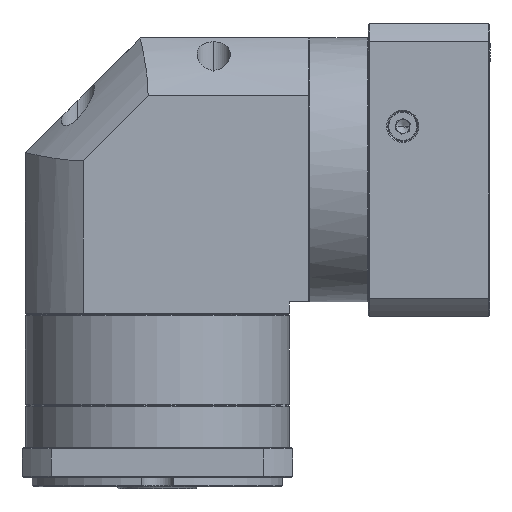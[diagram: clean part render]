
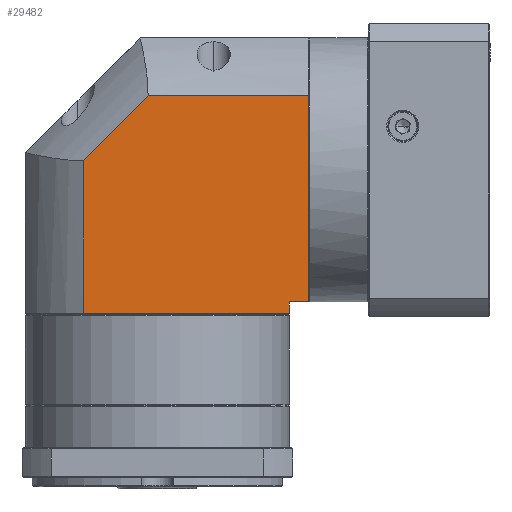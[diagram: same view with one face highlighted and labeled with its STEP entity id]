
A CAD part, front view. The second image highlights one B-rep face of the part: STEP entity #29482.
In plain terms, the highlighted planar face has unit normal (0, -1, 0).
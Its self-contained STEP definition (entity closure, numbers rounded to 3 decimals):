
#245 = VERTEX_POINT ( 'NONE', #123141 ) ;
#1112 = LINE ( 'NONE', #48189, #56960 ) ;
#1428 = PLANE ( 'NONE',  #97469 ) ;
#2028 = ORIENTED_EDGE ( 'NONE', *, *, #92507, .F. ) ;
#2670 = DIRECTION ( 'NONE',  ( 1., 0., 0. ) ) ;
#5918 = LINE ( 'NONE', #62496, #125225 ) ;
#6051 = VERTEX_POINT ( 'NONE', #34226 ) ;
#7896 = FACE_OUTER_BOUND ( 'NONE', #21194, .T. ) ;
#8807 = EDGE_CURVE ( 'NONE', #26701, #245, #84419, .T. ) ;
#16205 = CARTESIAN_POINT ( 'NONE',  ( 12.435, 0.453, 16.199 ) ) ;
#18519 = CARTESIAN_POINT ( 'NONE',  ( 102.335, 0.453, -50.363 ) ) ;
#18929 = ORIENTED_EDGE ( 'NONE', *, *, #35394, .F. ) ;
#21194 = EDGE_LOOP ( 'NONE', ( #2028, #81990, #18929, #108618, #86638, #91268, #29160 ) ) ;
#26701 = VERTEX_POINT ( 'NONE', #29950 ) ;
#28120 = LINE ( 'NONE', #86063, #68260 ) ;
#28769 = CARTESIAN_POINT ( 'NONE',  ( 12.435, 0.453, -50.363 ) ) ;
#29160 = ORIENTED_EDGE ( 'NONE', *, *, #40549, .F. ) ;
#29482 = ADVANCED_FACE ( 'NONE', ( #7896 ), #1428, .F. ) ;
#29585 = DIRECTION ( 'NONE',  ( 0., 0., -1. ) ) ;
#29950 = CARTESIAN_POINT ( 'NONE',  ( 110.735, 0.453, -45.363 ) ) ;
#33808 = EDGE_CURVE ( 'NONE', #39651, #74168, #96775, .T. ) ;
#34226 = CARTESIAN_POINT ( 'NONE',  ( 40.773, 0.453, 44.537 ) ) ;
#35394 = EDGE_CURVE ( 'NONE', #128016, #26701, #94566, .T. ) ;
#35483 = CARTESIAN_POINT ( 'NONE',  ( 110.735, 0.453, -56.863 ) ) ;
#36336 = EDGE_CURVE ( 'NONE', #6051, #128016, #5918, .T. ) ;
#39618 = DIRECTION ( 'NONE',  ( 0., 1., 0. ) ) ;
#39651 = VERTEX_POINT ( 'NONE', #28769 ) ;
#40549 = EDGE_CURVE ( 'NONE', #76099, #39651, #28120, .T. ) ;
#47691 = DIRECTION ( 'NONE',  ( 0., 0., 1. ) ) ;
#48189 = CARTESIAN_POINT ( 'NONE',  ( 102.335, 0.453, -56.863 ) ) ;
#56960 = VECTOR ( 'NONE', #29585, 1000. ) ;
#60175 = DIRECTION ( 'NONE',  ( -1., 0., 0. ) ) ;
#61129 = VECTOR ( 'NONE', #83817, 1000. ) ;
#62496 = CARTESIAN_POINT ( 'NONE',  ( -12.665, 0.453, 44.537 ) ) ;
#68260 = VECTOR ( 'NONE', #104769, 1000. ) ;
#74168 = VERTEX_POINT ( 'NONE', #97245 ) ;
#76099 = VERTEX_POINT ( 'NONE', #18519 ) ;
#78077 = VECTOR ( 'NONE', #47691, 1000. ) ;
#78223 = VECTOR ( 'NONE', #60175, 1000. ) ;
#81990 = ORIENTED_EDGE ( 'NONE', *, *, #8807, .F. ) ;
#83817 = DIRECTION ( 'NONE',  ( 0.707, 0., 0.707 ) ) ;
#84098 = EDGE_CURVE ( 'NONE', #74168, #6051, #95214, .T. ) ;
#84419 = LINE ( 'NONE', #119966, #78223 ) ;
#86063 = CARTESIAN_POINT ( 'NONE',  ( -12.665, 0.453, -50.363 ) ) ;
#86638 = ORIENTED_EDGE ( 'NONE', *, *, #84098, .F. ) ;
#91268 = ORIENTED_EDGE ( 'NONE', *, *, #33808, .F. ) ;
#92507 = EDGE_CURVE ( 'NONE', #245, #76099, #1112, .T. ) ;
#94566 = LINE ( 'NONE', #35483, #117836 ) ;
#95214 = LINE ( 'NONE', #16205, #61129 ) ;
#95271 = DIRECTION ( 'NONE',  ( 0., 0., -1. ) ) ;
#96775 = LINE ( 'NONE', #107094, #78077 ) ;
#97245 = CARTESIAN_POINT ( 'NONE',  ( 12.435, 0.453, 16.199 ) ) ;
#97469 = AXIS2_PLACEMENT_3D ( 'NONE', #99433, #39618, #118484 ) ;
#99433 = CARTESIAN_POINT ( 'NONE',  ( -12.665, 0.453, -56.863 ) ) ;
#104769 = DIRECTION ( 'NONE',  ( -1., 0., 0. ) ) ;
#107094 = CARTESIAN_POINT ( 'NONE',  ( 12.435, 0.453, -56.863 ) ) ;
#108618 = ORIENTED_EDGE ( 'NONE', *, *, #36336, .F. ) ;
#112771 = CARTESIAN_POINT ( 'NONE',  ( 110.735, 0.453, 44.537 ) ) ;
#117836 = VECTOR ( 'NONE', #95271, 1000. ) ;
#118484 = DIRECTION ( 'NONE',  ( 1., 0., 0. ) ) ;
#119966 = CARTESIAN_POINT ( 'NONE',  ( -12.665, 0.453, -45.363 ) ) ;
#123141 = CARTESIAN_POINT ( 'NONE',  ( 102.335, 0.453, -45.363 ) ) ;
#125225 = VECTOR ( 'NONE', #2670, 1000. ) ;
#128016 = VERTEX_POINT ( 'NONE', #112771 ) ;
